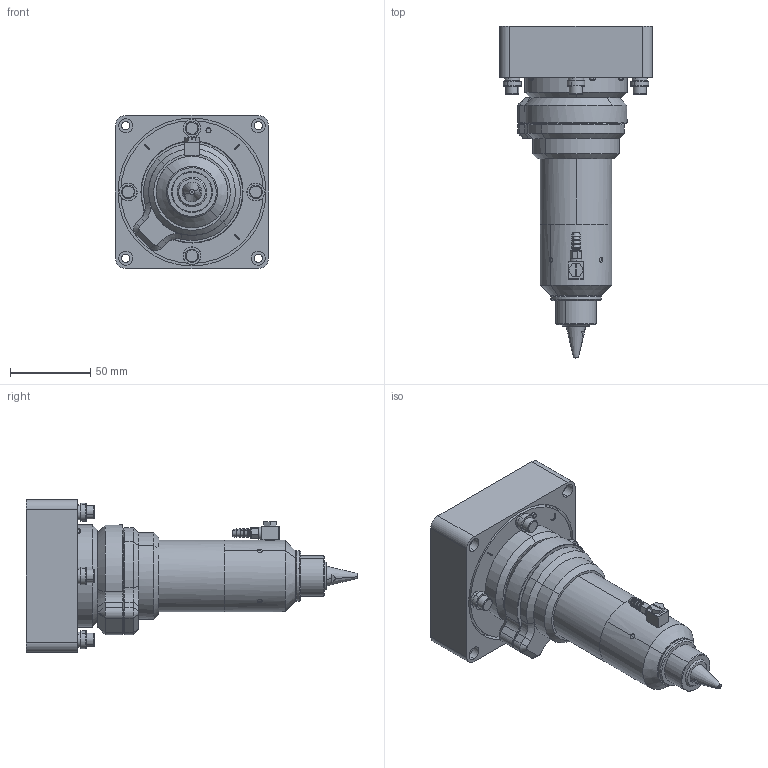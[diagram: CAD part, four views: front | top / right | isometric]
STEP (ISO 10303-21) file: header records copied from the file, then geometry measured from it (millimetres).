
FILE_DESCRIPTION (( 'STEP AP214' ), '1' );
FILE_NAME ('ILH-19-25-064.STEP', '2018-05-14T20:26:57', ( '' ), ( '' ), 'SwSTEP 2.0', 'SolidWorks 2018', '' );
FILE_SCHEMA (( 'AUTOMOTIVE_DESIGN' ));
Length unit declared in the file: inch
Products named in the file (1): ILH-19-25-064
Bounding box: 95.25 x 206.54 x 95.25 mm (x, y, z)
Volume: 564950.3 mm3; surface area: 71101.8 mm2
Topology: 1 solids, 1 shells, 442 faces, 988 edges, 573 vertices
Faces by surface type: cylinder 144, plane 116, torus 71, cone 65, bspline 24, sphere 22
Entity records: 21453 total; most frequent: CARTESIAN_POINT 11522, DIRECTION 2252, ORIENTED_EDGE 1924, EDGE_CURVE 962, AXIS2_PLACEMENT_3D 953, VERTEX_POINT 571, CIRCLE 534, EDGE_LOOP 525
